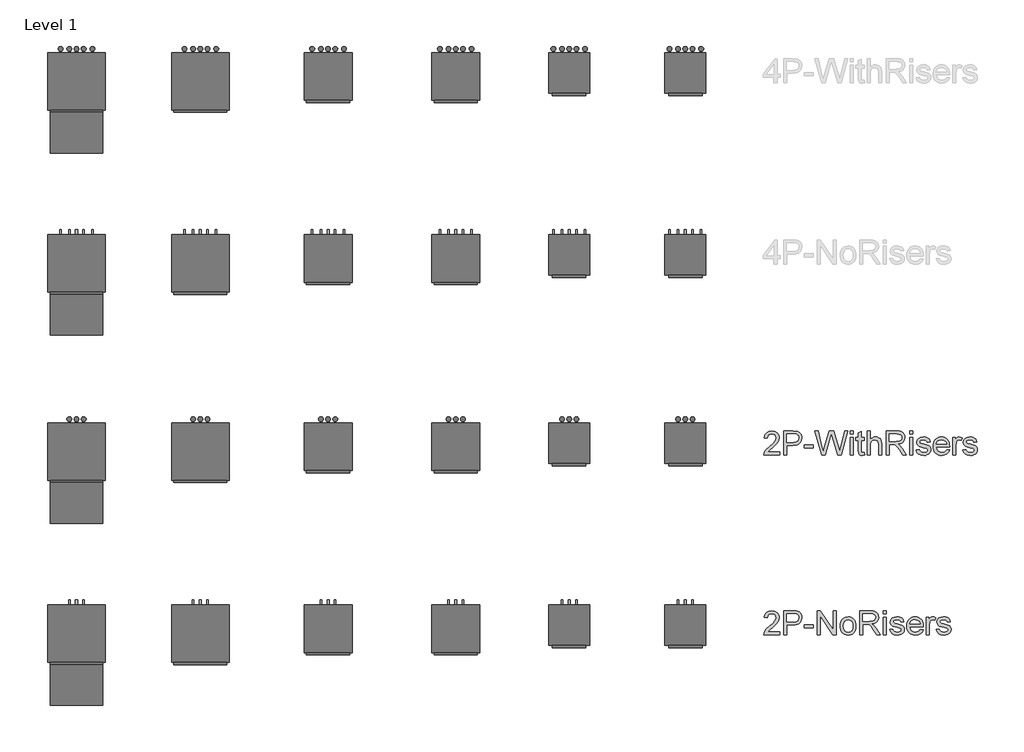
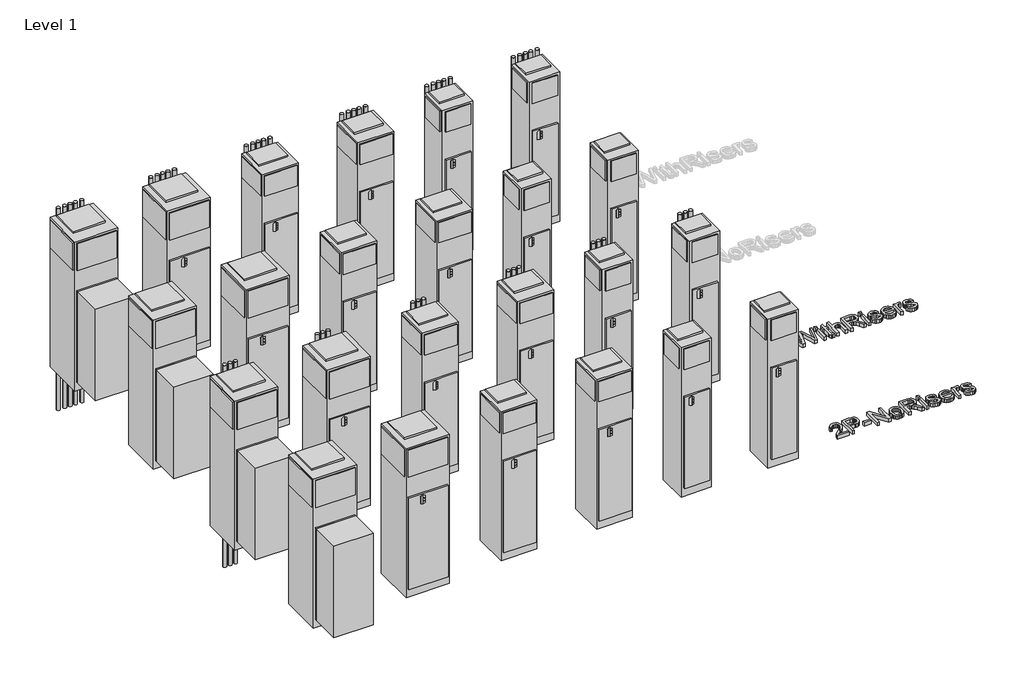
# One storey, part 1 of 2: 26 proxies.
"""IFC4 building model written with IfcOpenShell, lengths in millimetres."""

from ifc_helpers import new_model, si_unit, origin, origin_with_axes, place, context, project, spatial, polyline, outline, extrude, transform, mapped, element, save
from components import mechanical_equipment_b2c7ec3c, mechanical_equipment_c6af4a25, mechanical_equipment_a0cf3d25, mechanical_equipment_75d1827f, mechanical_equipment_88213263, mechanical_equipment_065dc9de, mechanical_equipment_73c6bf10, mechanical_equipment_33375677, mechanical_equipment_9952a5bc, mechanical_equipment_edf2454a, mechanical_equipment_9157e768, mechanical_equipment_efca1aa6, mechanical_equipment_03a785ce, mechanical_equipment_4e6194b6, mechanical_equipment_4a7a0854, mechanical_equipment_33ecd553

model = new_model("IFC4")

# Units and contexts
model_context = context("Model", 3, world=origin())
ifc_project = project(units=[si_unit("LENGTHUNIT", "METRE", prefix="MILLI")], contexts=[model_context])

# Site, building, storey
site = spatial("IfcSite", under=ifc_project)
building = spatial("IfcBuilding", under=site)
storey = spatial("IfcBuildingStorey", under=building, Name="Level 1", Elevation=0.0)

# Proxies
placement = place(None, origin())
mechanical_equipment_shape = mechanical_equipment_b2c7ec3c(model_context)
element("IfcBuildingElementProxy", 1, Name="Concealed_Universal_Modular_Fan_Coil_Unit_-_MUY_-_IEC_-_2-Pipe_Cool-EHeat_-_NoRisers_2022 : Size 03 - 277v/60Hz/1Ph - 4 Row 3.0kW", ObjectType="Concealed_Universal_Modular_Fan_Coil_Unit_-_MUY_-_IEC_-_2-Pipe_Cool-EHeat_-_NoRisers_2022 : Size 03 - 277v/60Hz/1Ph - 4 Row 3.0kW", at=placement, inside=storey, context=model_context, shape_type="MappedRepresentation", body=[
    mapped(mechanical_equipment_shape, transform((-16313.9378135, -2906.7044754, 0.0), x_axis=(1.0, 0.0, 0.0), y_axis=(0.0, 1.0, 0.0), z_axis=(0.0, 0.0, 1.0))),
])
element("IfcBuildingElementProxy", 2, Name="Concealed_Universal_Modular_Fan_Coil_Unit_-_MUY_-_IEC_-_2-Pipe_Cool-EHeat_-_NoRisers_2022 : Size 04 - 277v/60Hz/1Ph - 4 Row 4.0kW", ObjectType="Concealed_Universal_Modular_Fan_Coil_Unit_-_MUY_-_IEC_-_2-Pipe_Cool-EHeat_-_NoRisers_2022 : Size 04 - 277v/60Hz/1Ph - 4 Row 4.0kW", at=placement, inside=storey, context=model_context, shape_type="MappedRepresentation", body=[
    mapped(mechanical_equipment_shape, transform((-17544.5504669, -2906.7044754, 0.0), x_axis=(1.0, 0.0, 0.0), y_axis=(0.0, 1.0, 0.0), z_axis=(0.0, 0.0, 1.0))),
])
mechanical_equipment_2_shape = mechanical_equipment_c6af4a25(model_context)
element("IfcBuildingElementProxy", 3, Name="Concealed_Universal_Modular_Fan_Coil_Unit_-_MUY_-_IEC_-_2-Pipe_Cool-EHeat_-_NoRisers_2022 : Size 06 - 277v/60Hz/1Ph - 4 Row 6.0kW", ObjectType="Concealed_Universal_Modular_Fan_Coil_Unit_-_MUY_-_IEC_-_2-Pipe_Cool-EHeat_-_NoRisers_2022 : Size 06 - 277v/60Hz/1Ph - 4 Row 6.0kW", at=placement, inside=storey, context=model_context, shape_type="MappedRepresentation", body=[
    mapped(mechanical_equipment_2_shape, transform((-18785.4182257, -2906.7044754, 0.0), x_axis=(1.0, 0.0, 0.0), y_axis=(0.0, 1.0, 0.0), z_axis=(0.0, 0.0, 1.0))),
])
element("IfcBuildingElementProxy", 4, Name="Concealed_Universal_Modular_Fan_Coil_Unit_-_MUY_-_IEC_-_2-Pipe_Cool-EHeat_-_NoRisers_2022 : Size 08 - 277v/60Hz/1Ph - 4 Row 8.0kW", ObjectType="Concealed_Universal_Modular_Fan_Coil_Unit_-_MUY_-_IEC_-_2-Pipe_Cool-EHeat_-_NoRisers_2022 : Size 08 - 277v/60Hz/1Ph - 4 Row 8.0kW", at=placement, inside=storey, context=model_context, shape_type="MappedRepresentation", body=[
    mapped(mechanical_equipment_2_shape, transform((-20139.0921444, -2906.7044754, 0.0), x_axis=(1.0, 0.0, 0.0), y_axis=(0.0, 1.0, 0.0), z_axis=(0.0, 0.0, 1.0))),
])
mechanical_equipment_3_shape = mechanical_equipment_a0cf3d25(model_context)
element("IfcBuildingElementProxy", 5, Name="Concealed_Universal_Modular_Fan_Coil_Unit_-_MUY_-_IEC_-_2-Pipe_Cool-EHeat_-_NoRisers_2022 : Size 10 - 277v/60Hz/1Ph - 4 Row 8.0kW", ObjectType="Concealed_Universal_Modular_Fan_Coil_Unit_-_MUY_-_IEC_-_2-Pipe_Cool-EHeat_-_NoRisers_2022 : Size 10 - 277v/60Hz/1Ph - 4 Row 8.0kW", at=placement, inside=storey, context=model_context, shape_type="MappedRepresentation", body=[
    mapped(mechanical_equipment_3_shape, transform((-21544.0415903, -2906.7044754, 0.0), x_axis=(1.0, 0.0, 0.0), y_axis=(0.0, 1.0, 0.0), z_axis=(0.0, 0.0, 1.0))),
])
mechanical_equipment_4_shape = mechanical_equipment_75d1827f(model_context)
element("IfcBuildingElementProxy", 6, Name="Concealed_Universal_Modular_Fan_Coil_Unit_-_MUY_-_IEC_-_4-Pipe_-_NoRisers_2022 : Size 03 - 277v/60Hz/1Ph - 4/1 Coil", ObjectType="Concealed_Universal_Modular_Fan_Coil_Unit_-_MUY_-_IEC_-_4-Pipe_-_NoRisers_2022 : Size 03 - 277v/60Hz/1Ph - 4/1 Coil", at=placement, inside=storey, context=model_context, shape_type="MappedRepresentation", body=[
    mapped(mechanical_equipment_4_shape, transform((-16313.9378135, 1021.3950242, 0.0), x_axis=(1.0, 0.0, 0.0), y_axis=(0.0, 1.0, 0.0), z_axis=(0.0, 0.0, 1.0))),
])
element("IfcBuildingElementProxy", 7, Name="Concealed_Universal_Modular_Fan_Coil_Unit_-_MUY_-_IEC_-_4-Pipe_-_NoRisers_2022 : Size 04 - 277v/60Hz/1Ph - 4/1 Coil", ObjectType="Concealed_Universal_Modular_Fan_Coil_Unit_-_MUY_-_IEC_-_4-Pipe_-_NoRisers_2022 : Size 04 - 277v/60Hz/1Ph - 4/1 Coil", at=placement, inside=storey, context=model_context, shape_type="MappedRepresentation", body=[
    mapped(mechanical_equipment_4_shape, transform((-17544.5504669, 1021.3950242, 0.0), x_axis=(1.0, 0.0, 0.0), y_axis=(0.0, 1.0, 0.0), z_axis=(0.0, 0.0, 1.0))),
])
mechanical_equipment_5_shape = mechanical_equipment_88213263(model_context)
element("IfcBuildingElementProxy", 8, Name="Concealed_Universal_Modular_Fan_Coil_Unit_-_MUY_-_IEC_-_4-Pipe_-_NoRisers_2022 : Size 06 - 277v/60Hz/1Ph - 4/1 Coil", ObjectType="Concealed_Universal_Modular_Fan_Coil_Unit_-_MUY_-_IEC_-_4-Pipe_-_NoRisers_2022 : Size 06 - 277v/60Hz/1Ph - 4/1 Coil", at=placement, inside=storey, context=model_context, shape_type="MappedRepresentation", body=[
    mapped(mechanical_equipment_5_shape, transform((-18785.4182257, 1021.3950242, 0.0), x_axis=(1.0, 0.0, 0.0), y_axis=(0.0, 1.0, 0.0), z_axis=(0.0, 0.0, 1.0))),
])
element("IfcBuildingElementProxy", 9, Name="Concealed_Universal_Modular_Fan_Coil_Unit_-_MUY_-_IEC_-_4-Pipe_-_NoRisers_2022 : Size 08 - 277v/60Hz/1Ph - 4/1 Coil", ObjectType="Concealed_Universal_Modular_Fan_Coil_Unit_-_MUY_-_IEC_-_4-Pipe_-_NoRisers_2022 : Size 08 - 277v/60Hz/1Ph - 4/1 Coil", at=placement, inside=storey, context=model_context, shape_type="MappedRepresentation", body=[
    mapped(mechanical_equipment_5_shape, transform((-20139.0921444, 1021.3950242, 0.0), x_axis=(1.0, 0.0, 0.0), y_axis=(0.0, 1.0, 0.0), z_axis=(0.0, 0.0, 1.0))),
])
mechanical_equipment_6_shape = mechanical_equipment_065dc9de(model_context)
element("IfcBuildingElementProxy", 10, Name="Concealed_Universal_Modular_Fan_Coil_Unit_-_MUY_-_IEC_-_4-Pipe_-_NoRisers_2022 : Size 10 - 277v/60Hz/1Ph - 4/1 Coil", ObjectType="Concealed_Universal_Modular_Fan_Coil_Unit_-_MUY_-_IEC_-_4-Pipe_-_NoRisers_2022 : Size 10 - 277v/60Hz/1Ph - 4/1 Coil", at=placement, inside=storey, context=model_context, shape_type="MappedRepresentation", body=[
    mapped(mechanical_equipment_6_shape, transform((-21544.0415903, 1021.3950242, 0.0), x_axis=(1.0, 0.0, 0.0), y_axis=(0.0, 1.0, 0.0), z_axis=(0.0, 0.0, 1.0))),
])
mechanical_equipment_7_shape = mechanical_equipment_73c6bf10(model_context)
element("IfcBuildingElementProxy", 11, Name="Concealed_Universal_Modular_Fan_Coil_Unit_-_MUY_-_IEC_-_2-Pipe_Cool-EHeat_-_WithRisers_2022 : Size 03 - 277v/60Hz/1Ph - 4 Row 3.0kW", ObjectType="Concealed_Universal_Modular_Fan_Coil_Unit_-_MUY_-_IEC_-_2-Pipe_Cool-EHeat_-_WithRisers_2022 : Size 03 - 277v/60Hz/1Ph - 4 Row 3.0kW", at=placement, inside=storey, context=model_context, shape_type="MappedRepresentation", body=[
    mapped(mechanical_equipment_7_shape, transform((-16313.9378135, -976.3044754, 0.0), x_axis=(1.0, 0.0, 0.0), y_axis=(0.0, 1.0, 0.0), z_axis=(0.0, 0.0, 1.0))),
])
element("IfcBuildingElementProxy", 12, Name="Concealed_Universal_Modular_Fan_Coil_Unit_-_MUY_-_IEC_-_2-Pipe_Cool-EHeat_-_WithRisers_2022 : Size 04 - 277v/60Hz/1Ph - 4 Row 4.0kW", ObjectType="Concealed_Universal_Modular_Fan_Coil_Unit_-_MUY_-_IEC_-_2-Pipe_Cool-EHeat_-_WithRisers_2022 : Size 04 - 277v/60Hz/1Ph - 4 Row 4.0kW", at=placement, inside=storey, context=model_context, shape_type="MappedRepresentation", body=[
    mapped(mechanical_equipment_7_shape, transform((-17544.5504669, -976.3044754, 0.0), x_axis=(1.0, 0.0, 0.0), y_axis=(0.0, 1.0, 0.0), z_axis=(0.0, 0.0, 1.0))),
])
mechanical_equipment_8_shape = mechanical_equipment_33375677(model_context)
element("IfcBuildingElementProxy", 13, Name="Concealed_Universal_Modular_Fan_Coil_Unit_-_MUY_-_IEC_-_2-Pipe_Cool-EHeat_-_WithRisers_2022 : Size 06 - 277v/60Hz/1Ph - 4 Row 6.0kW", ObjectType="Concealed_Universal_Modular_Fan_Coil_Unit_-_MUY_-_IEC_-_2-Pipe_Cool-EHeat_-_WithRisers_2022 : Size 06 - 277v/60Hz/1Ph - 4 Row 6.0kW", at=placement, inside=storey, context=model_context, shape_type="MappedRepresentation", body=[
    mapped(mechanical_equipment_8_shape, transform((-18785.4182257, -976.3044754, 0.0), x_axis=(1.0, 0.0, 0.0), y_axis=(0.0, 1.0, 0.0), z_axis=(0.0, 0.0, 1.0))),
])
element("IfcBuildingElementProxy", 14, Name="Concealed_Universal_Modular_Fan_Coil_Unit_-_MUY_-_IEC_-_2-Pipe_Cool-EHeat_-_WithRisers_2022 : Size 08 - 277v/60Hz/1Ph - 4 Row 8.0kW", ObjectType="Concealed_Universal_Modular_Fan_Coil_Unit_-_MUY_-_IEC_-_2-Pipe_Cool-EHeat_-_WithRisers_2022 : Size 08 - 277v/60Hz/1Ph - 4 Row 8.0kW", at=placement, inside=storey, context=model_context, shape_type="MappedRepresentation", body=[
    mapped(mechanical_equipment_8_shape, transform((-20139.0921444, -976.3044754, 0.0), x_axis=(1.0, 0.0, 0.0), y_axis=(0.0, 1.0, 0.0), z_axis=(0.0, 0.0, 1.0))),
])
mechanical_equipment_9_shape = mechanical_equipment_9952a5bc(model_context)
element("IfcBuildingElementProxy", 15, Name="Concealed_Universal_Modular_Fan_Coil_Unit_-_MUY_-_IEC_-_2-Pipe_Cool-EHeat_-_WithRisers_2022 : Size 10 - 277v/60Hz/1Ph - 4 Row 8.0kW", ObjectType="Concealed_Universal_Modular_Fan_Coil_Unit_-_MUY_-_IEC_-_2-Pipe_Cool-EHeat_-_WithRisers_2022 : Size 10 - 277v/60Hz/1Ph - 4 Row 8.0kW", at=placement, inside=storey, context=model_context, shape_type="MappedRepresentation", body=[
    mapped(mechanical_equipment_9_shape, transform((-21544.0415903, -976.3044754, 0.0), x_axis=(1.0, 0.0, 0.0), y_axis=(0.0, 1.0, 0.0), z_axis=(0.0, 0.0, 1.0))),
])
mechanical_equipment_10_shape = mechanical_equipment_edf2454a(model_context)
element("IfcBuildingElementProxy", 16, Name="Concealed_Universal_Modular_Fan_Coil_Unit_-_MUY_-_IEC_-_4-Pipe_-_WithRisers_2022 : Size 03 - 277v/60Hz/1Ph - 4/1 Coil", ObjectType="Concealed_Universal_Modular_Fan_Coil_Unit_-_MUY_-_IEC_-_4-Pipe_-_WithRisers_2022 : Size 03 - 277v/60Hz/1Ph - 4/1 Coil", at=placement, inside=storey, context=model_context, shape_type="MappedRepresentation", body=[
    mapped(mechanical_equipment_10_shape, transform((-16313.9378135, 2951.7950242, 0.0), x_axis=(1.0, 0.0, 0.0), y_axis=(0.0, 1.0, 0.0), z_axis=(0.0, 0.0, 1.0))),
])
element("IfcBuildingElementProxy", 17, Name="Concealed_Universal_Modular_Fan_Coil_Unit_-_MUY_-_IEC_-_4-Pipe_-_WithRisers_2022 : Size 04 - 277v/60Hz/1Ph - 4/1 Coil", ObjectType="Concealed_Universal_Modular_Fan_Coil_Unit_-_MUY_-_IEC_-_4-Pipe_-_WithRisers_2022 : Size 04 - 277v/60Hz/1Ph - 4/1 Coil", at=placement, inside=storey, context=model_context, shape_type="MappedRepresentation", body=[
    mapped(mechanical_equipment_10_shape, transform((-17544.5504669, 2951.7950242, 0.0), x_axis=(1.0, 0.0, 0.0), y_axis=(0.0, 1.0, 0.0), z_axis=(0.0, 0.0, 1.0))),
])
mechanical_equipment_11_shape = mechanical_equipment_9157e768(model_context)
element("IfcBuildingElementProxy", 18, Name="Concealed_Universal_Modular_Fan_Coil_Unit_-_MUY_-_IEC_-_4-Pipe_-_WithRisers_2022 : Size 06 - 277v/60Hz/1Ph - 4/1 Coil", ObjectType="Concealed_Universal_Modular_Fan_Coil_Unit_-_MUY_-_IEC_-_4-Pipe_-_WithRisers_2022 : Size 06 - 277v/60Hz/1Ph - 4/1 Coil", at=placement, inside=storey, context=model_context, shape_type="MappedRepresentation", body=[
    mapped(mechanical_equipment_11_shape, transform((-18785.4182257, 2951.7950242, 0.0), x_axis=(1.0, 0.0, 0.0), y_axis=(0.0, 1.0, 0.0), z_axis=(0.0, 0.0, 1.0))),
])
element("IfcBuildingElementProxy", 19, Name="Concealed_Universal_Modular_Fan_Coil_Unit_-_MUY_-_IEC_-_4-Pipe_-_WithRisers_2022 : Size 08 - 277v/60Hz/1Ph - 4/1 Coil", ObjectType="Concealed_Universal_Modular_Fan_Coil_Unit_-_MUY_-_IEC_-_4-Pipe_-_WithRisers_2022 : Size 08 - 277v/60Hz/1Ph - 4/1 Coil", at=placement, inside=storey, context=model_context, shape_type="MappedRepresentation", body=[
    mapped(mechanical_equipment_11_shape, transform((-20139.0921444, 2951.7950242, 0.0), x_axis=(1.0, 0.0, 0.0), y_axis=(0.0, 1.0, 0.0), z_axis=(0.0, 0.0, 1.0))),
])
mechanical_equipment_12_shape = mechanical_equipment_efca1aa6(model_context)
element("IfcBuildingElementProxy", 20, Name="Concealed_Universal_Modular_Fan_Coil_Unit_-_MUY_-_IEC_-_4-Pipe_-_WithRisers_2022 : Size 10 - 277v/60Hz/1Ph - 4/1 Coil", ObjectType="Concealed_Universal_Modular_Fan_Coil_Unit_-_MUY_-_IEC_-_4-Pipe_-_WithRisers_2022 : Size 10 - 277v/60Hz/1Ph - 4/1 Coil", at=placement, inside=storey, context=model_context, shape_type="MappedRepresentation", body=[
    mapped(mechanical_equipment_12_shape, transform((-21544.0415903, 2951.7950242, 0.0), x_axis=(1.0, 0.0, 0.0), y_axis=(0.0, 1.0, 0.0), z_axis=(0.0, 0.0, 1.0))),
])
mechanical_equipment_13_shape = mechanical_equipment_03a785ce(model_context)
element("IfcBuildingElementProxy", 21, Name="Concealed_Universal_Modular_Fan_Coil_Unit_-_MUY_-_IEC_-_2-Pipe_Cool-EHeat_-_WithRisers_2022 : Size 12 - 277v/60Hz/1Ph - 4 Row 8.0kW", ObjectType="Concealed_Universal_Modular_Fan_Coil_Unit_-_MUY_-_IEC_-_2-Pipe_Cool-EHeat_-_WithRisers_2022 : Size 12 - 277v/60Hz/1Ph - 4 Row 8.0kW", at=placement, inside=storey, context=model_context, shape_type="MappedRepresentation", body=[
    mapped(mechanical_equipment_13_shape, transform((-22856.6950872, -976.3044754, 0.0), x_axis=(1.0, 0.0, 0.0), y_axis=(0.0, 1.0, 0.0), z_axis=(0.0, 0.0, 1.0))),
])
mechanical_equipment_14_shape = mechanical_equipment_4e6194b6(model_context)
element("IfcBuildingElementProxy", 22, Name="Concealed_Universal_Modular_Fan_Coil_Unit_-_MUY_-_IEC_-_2-Pipe_Cool-EHeat_-_NoRisers_2022 : Size 12 - 277v/60Hz/1Ph - 4 Row 8.0kW", ObjectType="Concealed_Universal_Modular_Fan_Coil_Unit_-_MUY_-_IEC_-_2-Pipe_Cool-EHeat_-_NoRisers_2022 : Size 12 - 277v/60Hz/1Ph - 4 Row 8.0kW", at=placement, inside=storey, context=model_context, shape_type="MappedRepresentation", body=[
    mapped(mechanical_equipment_14_shape, transform((-22856.6950872, -2906.7044754, 0.0), x_axis=(1.0, 0.0, 0.0), y_axis=(0.0, 1.0, 0.0), z_axis=(0.0, 0.0, 1.0))),
])
mechanical_equipment_15_shape = mechanical_equipment_4a7a0854(model_context)
element("IfcBuildingElementProxy", 23, Name="Concealed_Universal_Modular_Fan_Coil_Unit_-_MUY_-_IEC_-_4-Pipe_-_NoRisers_2022 : Size 12 - 277v/60Hz/1Ph - 4/1 Coil", ObjectType="Concealed_Universal_Modular_Fan_Coil_Unit_-_MUY_-_IEC_-_4-Pipe_-_NoRisers_2022 : Size 12 - 277v/60Hz/1Ph - 4/1 Coil", at=placement, inside=storey, context=model_context, shape_type="MappedRepresentation", body=[
    mapped(mechanical_equipment_15_shape, transform((-22856.6950872, 1021.3950242, 0.0), x_axis=(1.0, 0.0, 0.0), y_axis=(0.0, 1.0, 0.0), z_axis=(0.0, 0.0, 1.0))),
])
mechanical_equipment_16_shape = mechanical_equipment_33ecd553(model_context)
element("IfcBuildingElementProxy", 24, Name="Concealed_Universal_Modular_Fan_Coil_Unit_-_MUY_-_IEC_-_4-Pipe_-_WithRisers_2022 : Size 12 - 277v/60Hz/1Ph - 4/1 Coil", ObjectType="Concealed_Universal_Modular_Fan_Coil_Unit_-_MUY_-_IEC_-_4-Pipe_-_WithRisers_2022 : Size 12 - 277v/60Hz/1Ph - 4/1 Coil", at=placement, inside=storey, context=model_context, shape_type="MappedRepresentation", body=[
    mapped(mechanical_equipment_16_shape, transform((-22856.6950872, 2951.7950242, 0.0), x_axis=(1.0, 0.0, 0.0), y_axis=(0.0, 1.0, 0.0), z_axis=(0.0, 0.0, 1.0))),
])
element("IfcBuildingElementProxy", 25, Name="24\" Arial", ObjectType="24\" Arial", at=placement, inside=storey, context=model_context, shape_type="SweptSolid", body=[
    extrude(outline(polyline([(-14945.4510312, -1041.9364832), (-14945.4510312, -1073.8313617), (-15112.8991432, -1073.8313617), (-15109.4729355, -1051.8413381), (-15101.6082316, -1034.655792), (-15090.0992886, -1017.984177), (-15050.1683958, -981.0122818), (-15015.7505827, -950.4411654), (-14995.0998947, -927.8749159), (-14984.7745508, -909.5602786), (-14981.3327695, -891.7439989), (-14984.5798799, -875.7731991), (-14994.3212112, -862.4966445), (-15009.295296, -853.5495704), (-15028.2406669, -850.5672124), (-15048.1360318, -853.4794889), (-15063.5929004, -862.2163184), (-15073.5678367, -876.0924594), (-15077.0174049, -894.4226703), (-15108.9122833, -890.4358105), (-15101.1799556, -859.584368), (-15084.4616197, -837.0492659), (-15059.6294011, -823.2665669), (-15027.5554254, -818.6723339), (-14995.2478446, -823.7804981), (-14970.462347, -839.1049905), (-14954.694005, -861.998287), (-14949.437891, -889.8128637), (-14955.1067073, -920.056933), (-14973.9508493, -951.3288646), (-15019.6440004, -995.0285858), (-15056.3355696, -1025.7087179), (-15070.7256417, -1041.9364832), (-14945.4510312, -1041.9364832)])), origin_with_axes(), (0.0, 0.0, 1.0), 50.8),
    extrude(outline(polyline([(-14901.5955733, -1073.8313617), (-14901.5955733, -818.6723339), (-14807.0322422, -818.6723339), (-14768.9078953, -821.1018266), (-14751.9092332, -825.6415518), (-14737.9162897, -833.0312587), (-14726.6487386, -843.6057814), (-14717.826254, -857.6999538), (-14712.1262903, -874.3248477), (-14710.2263024, -892.4915351), (-14715.3578271, -922.564294), (-14730.752401, -947.6223309), (-14743.0809084, -957.4882515), (-14759.5403321, -964.5353377), (-14780.130672, -968.7635894), (-14804.8519282, -970.1730067), (-14869.7006948, -970.1730067), (-14869.7006948, -1073.8313617), (-14901.5955733, -1073.8313617)]), holes=[polyline([(-14869.7006948, -938.2781282), (-14802.9830877, -938.2781282), (-14774.7013009, -935.350278), (-14756.0128956, -926.5667275), (-14745.5941096, -912.4725551), (-14742.1211809, -893.6128394), (-14744.1691187, -879.285062), (-14750.3129319, -867.1998932), (-14759.7895108, -858.1048692), (-14771.8357454, -852.7475264), (-14803.7306239, -850.5672124), (-14869.7006948, -850.5672124), (-14869.7006948, -938.2781282)])]), origin_with_axes(), (0.0, 0.0, 1.0), 50.8),
    extrude(outline(polyline([(-14686.3051436, -998.0810253), (-14686.3051436, -966.1861469), (-14586.6336484, -966.1861469), (-14586.6336484, -998.0810253), (-14686.3051436, -998.0810253)])), origin_with_axes(), (0.0, 0.0, 1.0), 50.8),
    extrude(outline(polyline([(-14501.1030465, -1073.8313617), (-14570.6862091, -818.6723339), (-14537.7946157, -818.6723339), (-14497.4276601, -986.3696247), (-14484.9687232, -1038.1365075), (-14471.6376607, -992.3499144), (-14421.0543769, -818.6723339), (-14373.648122, -818.6723339), (-14336.8942581, -944.5698913), (-14321.1492766, -991.2909047), (-14309.5468916, -1038.1365075), (-14297.4617228, -987.8646971), (-14256.7209992, -818.6723339), (-14223.8294057, -818.6723339), (-14293.474863, -1073.8313617), (-14327.5500555, -1073.8313617), (-14388.7234357, -876.9801586), (-14397.2578074, -849.5082028), (-14406.8511888, -882.5866802), (-14462.6049315, -1073.8313617), (-14501.1030465, -1073.8313617)])), origin_with_axes(), (0.0, 0.0, 1.0), 50.8),
    extrude(outline(polyline([(-14195.9213871, -850.5672124), (-14195.9213871, -818.6723339), (-14164.0265086, -818.6723339), (-14164.0265086, -850.5672124), (-14195.9213871, -850.5672124)])), origin_with_axes(), (0.0, 0.0, 1.0), 50.8),
    extrude(outline(polyline([(-14195.9213871, -1073.8313617), (-14195.9213871, -886.4489507), (-14164.0265086, -886.4489507), (-14164.0265086, -1073.8313617), (-14195.9213871, -1073.8313617)])), origin_with_axes(), (0.0, 0.0, 1.0), 50.8),
    extrude(outline(polyline([(-14048.4075741, -1047.2315314), (-14044.4207143, -1074.765782), (-14068.2795785, -1077.8182215), (-14083.5884972, -1076.4944595), (-14095.0039982, -1072.5231733), (-14108.3350606, -1058.6314587), (-14112.1973311, -1022.438247), (-14112.1973311, -918.3438292), (-14136.1184899, -918.3438292), (-14136.1184899, -886.4489507), (-14112.1973311, -886.4489507), (-14112.1973311, -840.9115363), (-14080.3024526, -822.1608363), (-14080.3024526, -886.4489507), (-14048.4075741, -886.4489507), (-14048.4075741, -918.3438292), (-14080.3024526, -918.3438292), (-14080.3024526, -1021.5038267), (-14078.6204961, -1037.9496234), (-14073.1697112, -1043.7741764), (-14062.2992888, -1045.923343), (-14048.4075741, -1047.2315314)])), origin_with_axes(), (0.0, 0.0, 1.0), 50.8),
    extrude(outline(polyline([(-14016.5126957, -1073.8313617), (-14016.5126957, -818.6723339), (-13984.6178172, -818.6723339), (-13984.6178172, -912.4881288), (-13972.9025231, -899.3517372), (-13959.7466644, -889.9686004), (-13945.1502411, -884.3387182), (-13929.1132533, -882.4620909), (-13909.8486221, -884.5100286), (-13893.2938097, -890.6538419), (-13880.258647, -900.4107469), (-13871.5529648, -913.2979597), (-13866.6472584, -931.0052238), (-13865.0120229, -955.2222824), (-13865.0120229, -1073.8313617), (-13896.9069014, -1073.8313617), (-13896.9069014, -958.5239007), (-13899.4454098, -938.5584543), (-13907.060935, -924.884771), (-13919.3329878, -916.9889198), (-13935.8410792, -914.3569693), (-13949.3200916, -916.1323679), (-13961.9736994, -921.4585634), (-13972.45478, -929.8216248), (-13979.416211, -940.7076209), (-13983.3174157, -955.1755614), (-13984.6178172, -974.2844559), (-13984.6178172, -1073.8313617), (-14016.5126957, -1073.8313617)])), origin_with_axes(), (0.0, 0.0, 1.0), 50.8),
    extrude(outline(polyline([(-13817.1697052, -1073.8313617), (-13817.1697052, -818.6723339), (-13707.219587, -818.6723339), (-13677.6685461, -820.3932246), (-13656.1690931, -825.5558966), (-13640.4552589, -835.0869833), (-13628.2610744, -849.9131182), (-13620.4353047, -868.297837), (-13617.8267148, -888.5046753), (-13622.1484085, -913.6405805), (-13635.1134897, -934.4781524), (-13657.1113002, -949.7559238), (-13688.5311817, -958.2124272), (-13670.4034285, -971.8549632), (-13644.5511344, -1004.6842619), (-13602.0038649, -1073.8313617), (-13639.0692022, -1073.8313617), (-13672.272269, -1020.9431746), (-13696.2557226, -985.9335619), (-13713.1064347, -969.3943231), (-13728.2751904, -963.3205914), (-13746.7767117, -962.1992871), (-13785.2748267, -962.1992871), (-13785.2748267, -1073.8313617), (-13817.1697052, -1073.8313617)]), holes=[polyline([(-13785.2748267, -930.3044086), (-13713.8851183, -930.3044086), (-13677.4738752, -925.788044), (-13665.4977221, -919.9167699), (-13656.7920399, -911.3356772), (-13651.4892049, -900.9558253), (-13649.7215932, -889.6882743), (-13653.093293, -874.1301768), (-13663.2083924, -861.5933716), (-13680.6119699, -853.3237522), (-13705.849104, -850.5672124), (-13785.2748267, -850.5672124), (-13785.2748267, -930.3044086)])]), origin_with_axes(), (0.0, 0.0, 1.0), 50.8),
    extrude(outline(polyline([(-13565.9975372, -850.5672124), (-13565.9975372, -818.6723339), (-13534.1026588, -818.6723339), (-13534.1026588, -850.5672124), (-13565.9975372, -850.5672124)])), origin_with_axes(), (0.0, 0.0, 1.0), 50.8),
    extrude(outline(polyline([(-13565.9975372, -1073.8313617), (-13565.9975372, -886.4489507), (-13534.1026588, -886.4489507), (-13534.1026588, -1073.8313617), (-13565.9975372, -1073.8313617)])), origin_with_axes(), (0.0, 0.0, 1.0), 50.8),
    extrude(outline(polyline([(-13498.2209205, -1018.0153244), (-13466.326042, -1014.0284646), (-13461.2957462, -1027.6710005), (-13451.5622018, -1037.7004447), (-13437.063114, -1043.8676185), (-13417.7361881, -1045.923343), (-13398.6428673, -1044.0389288), (-13385.2183628, -1038.3856862), (-13377.2757905, -1030.1939352), (-13374.6282664, -1020.6939958), (-13377.2913642, -1012.5645395), (-13385.2806575, -1006.3662184), (-13418.1099562, -997.2711944), (-13466.139158, -981.666376), (-13478.2944083, -973.8250326), (-13487.1013193, -963.4451807), (-13492.4508753, -951.1887016), (-13494.2340607, -937.717476), (-13488.5029497, -913.9520539), (-13472.8669839, -895.7931534), (-13452.5900641, -886.3555087), (-13425.1492555, -882.4620909), (-13404.3895519, -884.0272448), (-13386.3396671, -888.7227067), (-13371.8250056, -896.0890531), (-13361.670972, -905.6668609), (-13354.9431461, -918.1647319), (-13350.7071076, -934.2912684), (-13382.601986, -938.2781282), (-13386.62778, -928.2408972), (-13394.5937128, -920.6798798), (-13406.5776527, -915.937697), (-13422.6574682, -914.3569693), (-13440.9721054, -915.8676154), (-13453.1818636, -920.3995537), (-13460.0498525, -926.9404956), (-13462.3391822, -934.4781524), (-13458.5392064, -943.7600604), (-13446.6409217, -950.7993598), (-13419.1689658, -957.5894804), (-13372.3545104, -972.6024994), (-13359.9890155, -979.7819618), (-13350.6136655, -989.6089482), (-13344.7034573, -1002.1146062), (-13342.7333879, -1017.3300829), (-13345.0460781, -1033.0594907), (-13351.9841486, -1047.8544783), (-13363.282847, -1060.5548071), (-13378.6774209, -1070.0002386), (-13397.2723842, -1075.8637258), (-13418.1722509, -1077.8182215), (-13450.3318818, -1074.0493931), (-13473.8014042, -1062.7429079), (-13489.4685173, -1044.0233552), (-13498.2209205, -1018.0153244)])), origin_with_axes(), (0.0, 0.0, 1.0), 50.8),
    extrude(outline(polyline([(-13175.6590441, -1018.0153244), (-13144.3871124, -1022.0021842), (-13155.6546635, -1045.5651486), (-13173.6344668, -1063.1789707), (-13197.9216069, -1074.1584088), (-13228.1111684, -1077.8182215), (-13247.901411, -1076.2394406), (-13265.5347001, -1071.5030979), (-13281.0110358, -1063.6091933), (-13294.3304181, -1052.557727), (-13305.0412104, -1038.6562788), (-13312.6917763, -1022.2124288), (-13317.2821159, -1003.2261769), (-13318.8122291, -981.6975233), (-13317.2665422, -959.4388539), (-13312.6294816, -939.8199216), (-13304.9010473, -922.8407267), (-13294.0812393, -908.501269), (-13280.7968979, -897.1091286), (-13265.6748632, -888.9718854), (-13248.7151353, -884.0895395), (-13229.9177143, -882.4620909), (-13211.7257197, -884.0856461), (-13195.2740828, -888.9563117), (-13180.5628038, -897.0740878), (-13167.5918824, -908.4389743), (-13157.0037328, -922.7472847), (-13149.4407687, -939.6953323), (-13144.9029903, -959.2831171), (-13143.3903975, -981.5106393), (-13143.5772815, -990.1073057), (-13286.9173506, -990.1073057), (-13281.3964842, -1013.9817436), (-13268.571566, -1031.5332709), (-13250.0622579, -1042.325825), (-13227.4882216, -1045.923343), (-13210.51292, -1044.2569602), (-13196.2162899, -1039.2578118), (-13184.5983313, -1030.6144243), (-13175.6590441, -1018.0153244)]), holes=[polyline([(-13286.9173506, -958.2124272), (-13175.285276, -958.2124272), (-13179.5991829, -941.3617151), (-13188.0556863, -929.3076936), (-13206.6506496, -918.0946504), (-13230.0423036, -914.3569693), (-13251.5417566, -917.3393274), (-13269.3191022, -926.2864014), (-13281.6768103, -940.2326239), (-13286.9173506, -958.2124272)])]), origin_with_axes(), (0.0, 0.0, 1.0), 50.8),
    extrude(outline(polyline([(-13111.495519, -1073.8313617), (-13111.495519, -886.4489507), (-13083.5875003, -886.4489507), (-13083.5875003, -914.1700853), (-13073.2777301, -898.0980567), (-13063.7777907, -888.6292646), (-13054.2467039, -884.0038843), (-13043.8434916, -882.4620909), (-13027.9583471, -884.9227309), (-13011.8240238, -892.304651), (-13022.4764148, -920.8979112), (-13044.9025013, -914.3569693), (-13054.4258012, -915.9299101), (-13062.9368124, -920.6487325), (-13069.8125882, -928.155242), (-13074.4301817, -938.0912442), (-13079.6006405, -975.3434655), (-13079.6006405, -1073.8313617), (-13111.495519, -1073.8313617)])), origin_with_axes(), (0.0, 0.0, 1.0), 50.8),
    extrude(outline(polyline([(-13003.8503042, -1018.0153244), (-12971.9554257, -1014.0284646), (-12966.9251299, -1027.6710005), (-12957.1915855, -1037.7004447), (-12942.6924976, -1043.8676185), (-12923.3655718, -1045.923343), (-12904.272251, -1044.0389288), (-12890.8477464, -1038.3856862), (-12882.9051742, -1030.1939352), (-12880.2576501, -1020.6939958), (-12882.9207478, -1012.5645395), (-12890.9100411, -1006.3662184), (-12923.7393399, -997.2711944), (-12971.7685416, -981.666376), (-12983.923792, -973.8250326), (-12992.730703, -963.4451807), (-12998.080259, -951.1887016), (-12999.8634444, -937.717476), (-12994.1323334, -913.9520539), (-12978.4963676, -895.7931534), (-12958.2194478, -886.3555087), (-12930.7786392, -882.4620909), (-12910.0189356, -884.0272448), (-12891.9690508, -888.7227067), (-12877.4543893, -896.0890531), (-12867.3003557, -905.6668609), (-12860.5725298, -918.1647319), (-12856.3364912, -934.2912684), (-12888.2313697, -938.2781282), (-12892.2571637, -928.2408972), (-12900.2230965, -920.6798798), (-12912.2070364, -915.937697), (-12928.2868518, -914.3569693), (-12946.6014891, -915.8676154), (-12958.8112473, -920.3995537), (-12965.6792362, -926.9404956), (-12967.9685659, -934.4781524), (-12964.1685901, -943.7600604), (-12952.2703054, -950.7993598), (-12924.7983495, -957.5894804), (-12877.9838941, -972.6024994), (-12865.6183992, -979.7819618), (-12856.2430492, -989.6089482), (-12850.332841, -1002.1146062), (-12848.3627716, -1017.3300829), (-12850.6754618, -1033.0594907), (-12857.6135323, -1047.8544783), (-12868.9122307, -1060.5548071), (-12884.3068046, -1070.0002386), (-12902.9017679, -1075.8637258), (-12923.8016346, -1077.8182215), (-12955.9612654, -1074.0493931), (-12979.4307878, -1062.7429079), (-12995.097901, -1044.0233552), (-13003.8503042, -1018.0153244)])), origin_with_axes(), (0.0, 0.0, 1.0), 50.8),
])
element("IfcBuildingElementProxy", 26, Name="24\" Arial", ObjectType="24\" Arial", at=placement, inside=storey, context=model_context, shape_type="SweptSolid", body=[
    extrude(outline(polyline([(-14945.4510312, -2948.6516714), (-14945.4510312, -2980.5465499), (-15112.8991432, -2980.5465499), (-15109.4729355, -2958.5565262), (-15101.6082316, -2941.3709801), (-15090.0992886, -2924.6993652), (-15050.1683958, -2887.7274699), (-15015.7505827, -2857.1563535), (-14995.0998947, -2834.590104), (-14984.7745508, -2816.2754668), (-14981.3327695, -2798.459187), (-14984.5798799, -2782.4883873), (-14994.3212112, -2769.2118326), (-15009.295296, -2760.2647586), (-15028.2406669, -2757.2824006), (-15048.1360318, -2760.1946771), (-15063.5929004, -2768.9315066), (-15073.5678367, -2782.8076475), (-15077.0174049, -2801.1378585), (-15108.9122833, -2797.1509986), (-15101.1799556, -2766.2995561), (-15084.4616197, -2743.764454), (-15059.6294011, -2729.9817551), (-15027.5554254, -2725.3875221), (-14995.2478446, -2730.4956862), (-14970.462347, -2745.8201786), (-14954.694005, -2768.7134752), (-14949.437891, -2796.5280518), (-14955.1067073, -2826.7721211), (-14973.9508493, -2858.0440528), (-15019.6440004, -2901.743774), (-15056.3355696, -2932.4239061), (-15070.7256417, -2948.6516714), (-14945.4510312, -2948.6516714)])), origin_with_axes(), (0.0, 0.0, 1.0), 50.8),
    extrude(outline(polyline([(-14901.5955733, -2980.5465499), (-14901.5955733, -2725.3875221), (-14807.0322422, -2725.3875221), (-14768.9078953, -2727.8170148), (-14751.9092332, -2732.3567399), (-14737.9162897, -2739.7464469), (-14726.6487386, -2750.3209696), (-14717.826254, -2764.4151419), (-14712.1262903, -2781.0400359), (-14710.2263024, -2799.2067232), (-14715.3578271, -2829.2794822), (-14730.752401, -2854.337519), (-14743.0809084, -2864.2034397), (-14759.5403321, -2871.2505259), (-14780.130672, -2875.4787776), (-14804.8519282, -2876.8881948), (-14869.7006948, -2876.8881948), (-14869.7006948, -2980.5465499), (-14901.5955733, -2980.5465499)]), holes=[polyline([(-14869.7006948, -2844.9933164), (-14802.9830877, -2844.9933164), (-14774.7013009, -2842.0654662), (-14756.0128956, -2833.2819157), (-14745.5941096, -2819.1877433), (-14742.1211809, -2800.3280276), (-14744.1691187, -2786.0002501), (-14750.3129319, -2773.9150813), (-14759.7895108, -2764.8200574), (-14771.8357454, -2759.4627145), (-14803.7306239, -2757.2824006), (-14869.7006948, -2757.2824006), (-14869.7006948, -2844.9933164)])]), origin_with_axes(), (0.0, 0.0, 1.0), 50.8),
    extrude(outline(polyline([(-14686.3051436, -2904.7962135), (-14686.3051436, -2872.901335), (-14586.6336484, -2872.901335), (-14586.6336484, -2904.7962135), (-14686.3051436, -2904.7962135)])), origin_with_axes(), (0.0, 0.0, 1.0), 50.8),
    extrude(outline(polyline([(-14546.7650503, -2980.5465499), (-14546.7650503, -2725.3875221), (-14512.6275632, -2725.3875221), (-14379.3169383, -2927.5337733), (-14379.3169383, -2725.3875221), (-14347.4220598, -2725.3875221), (-14347.4220598, -2980.5465499), (-14381.5595469, -2980.5465499), (-14514.8701718, -2778.3380039), (-14514.8701718, -2980.5465499), (-14546.7650503, -2980.5465499)])), origin_with_axes(), (0.0, 0.0, 1.0), 50.8),
    extrude(outline(polyline([(-14303.5666019, -2886.8553444), (-14301.8418178, -2862.5876713), (-14296.6674656, -2841.6761244), (-14288.0435452, -2824.1207036), (-14275.9700567, -2809.921409), (-14250.3980887, -2794.3633115), (-14219.7802512, -2789.177279), (-14202.1839496, -2790.7560599), (-14186.2734978, -2795.4924027), (-14172.0488959, -2803.3863072), (-14159.510144, -2814.4377736), (-14149.2762953, -2828.2730337), (-14141.9664034, -2844.5183194), (-14137.5804683, -2863.1736307), (-14136.1184899, -2884.2389676), (-14138.7037193, -2916.4608932), (-14146.4594076, -2940.9894252), (-14159.1597364, -2959.3585703), (-14176.5788875, -2973.1023351), (-14197.2685096, -2981.675641), (-14219.7802512, -2984.5334097), (-14237.6335185, -2982.9604689), (-14253.6919201, -2978.2416465), (-14267.9554562, -2970.3769426), (-14280.4241266, -2959.3663571), (-14290.5489596, -2945.3967741), (-14297.7809831, -2928.6550777), (-14302.1201972, -2909.1412677), (-14303.5666019, -2886.8553444)]), holes=[polyline([(-14271.6717234, -2886.7930497), (-14267.9807634, -2915.6588491), (-14256.9078832, -2936.2238818), (-14240.2440551, -2948.5348689), (-14219.7802512, -2952.6385312), (-14199.4098894, -2948.5115084), (-14182.7772086, -2936.1304398), (-14171.7043285, -2915.2928678), (-14168.0133684, -2885.7963347), (-14171.727689, -2857.7715135), (-14182.8706507, -2837.4868069), (-14199.5266919, -2825.1758198), (-14219.7802512, -2821.0721575), (-14240.2440551, -2825.1602462), (-14256.9078832, -2837.4245122), (-14267.9807634, -2857.9428239), (-14271.6717234, -2886.7930497)])]), origin_with_axes(), (0.0, 0.0, 1.0), 50.8),
    extrude(outline(polyline([(-14096.2498918, -2980.5465499), (-14096.2498918, -2725.3875221), (-13986.2997737, -2725.3875221), (-13956.7487327, -2727.1084127), (-13935.2492797, -2732.2710847), (-13919.5354455, -2741.8021715), (-13907.341261, -2756.6283064), (-13899.5154913, -2775.0130251), (-13896.9069014, -2795.2198634), (-13901.2285951, -2820.3557686), (-13914.1936763, -2841.1933406), (-13936.1914868, -2856.471112), (-13967.6113683, -2864.9276154), (-13949.4836151, -2878.5701513), (-13923.631321, -2911.3994501), (-13881.0840515, -2980.5465499), (-13918.1493888, -2980.5465499), (-13951.3524557, -2927.6583627), (-13975.3359092, -2892.64875), (-13992.1866214, -2876.1095113), (-14007.355377, -2870.0357795), (-14025.8568983, -2868.9144752), (-14064.3550134, -2868.9144752), (-14064.3550134, -2980.5465499), (-14096.2498918, -2980.5465499)]), holes=[polyline([(-14064.3550134, -2837.0195967), (-13992.9653049, -2837.0195967), (-13956.5540618, -2832.5032321), (-13944.5779087, -2826.6319581), (-13935.8722266, -2818.0508653), (-13930.5693915, -2807.6710135), (-13928.8017799, -2796.4034624), (-13932.1734797, -2780.845365), (-13942.2885791, -2768.3085597), (-13959.6921565, -2760.0389403), (-13984.9292906, -2757.2824006), (-14064.3550134, -2757.2824006), (-14064.3550134, -2837.0195967)])]), origin_with_axes(), (0.0, 0.0, 1.0), 50.8),
    extrude(outline(polyline([(-13845.0777239, -2757.2824006), (-13845.0777239, -2725.3875221), (-13813.1828454, -2725.3875221), (-13813.1828454, -2757.2824006), (-13845.0777239, -2757.2824006)])), origin_with_axes(), (0.0, 0.0, 1.0), 50.8),
    extrude(outline(polyline([(-13845.0777239, -2980.5465499), (-13845.0777239, -2793.1641388), (-13813.1828454, -2793.1641388), (-13813.1828454, -2980.5465499), (-13845.0777239, -2980.5465499)])), origin_with_axes(), (0.0, 0.0, 1.0), 50.8),
    extrude(outline(polyline([(-13777.3011071, -2924.7305125), (-13745.4062286, -2920.7436527), (-13740.3759329, -2934.3861886), (-13730.6423884, -2944.4156328), (-13716.1433006, -2950.5828066), (-13696.8163747, -2952.6385312), (-13677.7230539, -2950.754117), (-13664.2985494, -2945.1008744), (-13656.3559771, -2936.9091234), (-13653.708453, -2927.409184), (-13656.3715508, -2919.2797276), (-13664.3608441, -2913.0814065), (-13697.1901428, -2903.9863826), (-13745.2193446, -2888.3815641), (-13757.3745949, -2880.5402207), (-13766.1815059, -2870.1603689), (-13771.531062, -2857.9038897), (-13773.3142473, -2844.4326642), (-13767.5831363, -2820.6672421), (-13751.9471705, -2802.5083415), (-13731.6702507, -2793.0706968), (-13704.2294422, -2789.177279), (-13683.4697386, -2790.742433), (-13665.4198537, -2795.4378948), (-13650.9051922, -2802.8042413), (-13640.7511587, -2812.382049), (-13634.0233327, -2824.8799201), (-13629.7872942, -2841.0064565), (-13661.6821727, -2844.9933164), (-13665.7079666, -2834.9560853), (-13673.6738994, -2827.395068), (-13685.6578394, -2822.6528851), (-13701.7376548, -2821.0721575), (-13720.052292, -2822.5828036), (-13732.2620502, -2827.1147419), (-13739.1300392, -2833.6556838), (-13741.4193688, -2841.1933406), (-13737.6193931, -2850.4752486), (-13725.7211083, -2857.5145479), (-13698.2491525, -2864.3046686), (-13651.4346971, -2879.3176875), (-13639.0692022, -2886.4971499), (-13629.6938522, -2896.3241364), (-13623.783644, -2908.8297943), (-13621.8135746, -2924.045271), (-13624.1262647, -2939.7746789), (-13631.0643352, -2954.5696664), (-13642.3630336, -2967.2699952), (-13657.7576075, -2976.7154268), (-13676.3525709, -2982.5789139), (-13697.2524375, -2984.5334097), (-13729.4120684, -2980.7645813), (-13752.8815908, -2969.458096), (-13768.5487039, -2950.7385433), (-13777.3011071, -2924.7305125)])), origin_with_axes(), (0.0, 0.0, 1.0), 50.8),
    extrude(outline(polyline([(-13454.7392307, -2924.7305125), (-13423.4672991, -2928.7173723), (-13434.7348501, -2952.2803368), (-13452.7146534, -2969.8941588), (-13477.0017936, -2980.873597), (-13507.1913551, -2984.5334097), (-13526.9815976, -2982.9546288), (-13544.6148868, -2978.218286), (-13560.0912225, -2970.3243815), (-13573.4106047, -2959.2729151), (-13584.121397, -2945.3714669), (-13591.771963, -2928.9276169), (-13596.3623025, -2909.9413651), (-13597.8924157, -2888.4127115), (-13596.3467289, -2866.154042), (-13591.7096683, -2846.5351098), (-13583.981234, -2829.5559149), (-13573.161426, -2815.2164572), (-13559.8770845, -2803.8243167), (-13544.7550498, -2795.6870736), (-13527.795322, -2790.8047277), (-13508.9979009, -2789.177279), (-13490.8059063, -2790.8008342), (-13474.3542695, -2795.6714999), (-13459.6429904, -2803.789276), (-13446.672069, -2815.1541625), (-13436.0839194, -2829.4624728), (-13428.5209553, -2846.4105204), (-13423.9831769, -2865.9983053), (-13422.4705841, -2888.2258274), (-13422.6574682, -2896.8224939), (-13565.9975372, -2896.8224939), (-13560.4766708, -2920.6969317), (-13547.6517526, -2938.2484591), (-13529.1424445, -2949.0410132), (-13506.5684082, -2952.6385312), (-13489.5931067, -2950.9721484), (-13475.2964766, -2945.973), (-13463.6785179, -2937.3296125), (-13454.7392307, -2924.7305125)]), holes=[polyline([(-13565.9975372, -2864.9276154), (-13454.3654626, -2864.9276154), (-13458.6793695, -2848.0769032), (-13467.1358729, -2836.0228818), (-13485.7308362, -2824.8098386), (-13509.1224903, -2821.0721575), (-13530.6219433, -2824.0545155), (-13548.3992889, -2833.0015896), (-13560.7569969, -2846.9478121), (-13565.9975372, -2864.9276154)])]), origin_with_axes(), (0.0, 0.0, 1.0), 50.8),
    extrude(outline(polyline([(-13390.5757056, -2980.5465499), (-13390.5757056, -2793.1641388), (-13362.667687, -2793.1641388), (-13362.667687, -2820.8852735), (-13352.3579167, -2804.8132448), (-13342.8579773, -2795.3444528), (-13333.3268906, -2790.7190725), (-13322.9236783, -2789.177279), (-13307.0385337, -2791.6379191), (-13290.9042104, -2799.0198392), (-13301.5566015, -2827.6130994), (-13323.9826879, -2821.0721575), (-13333.5059878, -2822.6450983), (-13342.0169991, -2827.3639206), (-13348.8927749, -2834.8704301), (-13353.5103684, -2844.8064323), (-13358.6808272, -2882.0586536), (-13358.6808272, -2980.5465499), (-13390.5757056, -2980.5465499)])), origin_with_axes(), (0.0, 0.0, 1.0), 50.8),
    extrude(outline(polyline([(-13282.9304908, -2924.7305125), (-13251.0356123, -2920.7436527), (-13246.0053165, -2934.3861886), (-13236.2717721, -2944.4156328), (-13221.7726843, -2950.5828066), (-13202.4457584, -2952.6385312), (-13183.3524376, -2950.754117), (-13169.9279331, -2945.1008744), (-13161.9853608, -2936.9091234), (-13159.3378367, -2927.409184), (-13162.0009345, -2919.2797276), (-13169.9902278, -2913.0814065), (-13202.8195265, -2903.9863826), (-13250.8487283, -2888.3815641), (-13263.0039786, -2880.5402207), (-13271.8108896, -2870.1603689), (-13277.1604456, -2857.9038897), (-13278.943631, -2844.4326642), (-13273.21252, -2820.6672421), (-13257.5765542, -2802.5083415), (-13237.2996344, -2793.0706968), (-13209.8588259, -2789.177279), (-13189.0991222, -2790.742433), (-13171.0492374, -2795.4378948), (-13156.5345759, -2802.8042413), (-13146.3805423, -2812.382049), (-13139.6527164, -2824.8799201), (-13135.4166779, -2841.0064565), (-13167.3115563, -2844.9933164), (-13171.3373503, -2834.9560853), (-13179.3032831, -2827.395068), (-13191.287223, -2822.6528851), (-13207.3670385, -2821.0721575), (-13225.6816757, -2822.5828036), (-13237.8914339, -2827.1147419), (-13244.7594229, -2833.6556838), (-13247.0487525, -2841.1933406), (-13243.2487768, -2850.4752486), (-13231.350492, -2857.5145479), (-13203.8785361, -2864.3046686), (-13157.0640807, -2879.3176875), (-13144.6985859, -2886.4971499), (-13135.3232358, -2896.3241364), (-13129.4130276, -2908.8297943), (-13127.4429582, -2924.045271), (-13129.7556484, -2939.7746789), (-13136.6937189, -2954.5696664), (-13147.9924173, -2967.2699952), (-13163.3869912, -2976.7154268), (-13181.9819545, -2982.5789139), (-13202.8818212, -2984.5334097), (-13235.0414521, -2980.7645813), (-13258.5109745, -2969.458096), (-13274.1780876, -2950.7385433), (-13282.9304908, -2924.7305125)])), origin_with_axes(), (0.0, 0.0, 1.0), 50.8),
])

save(model, "model.ifc")
